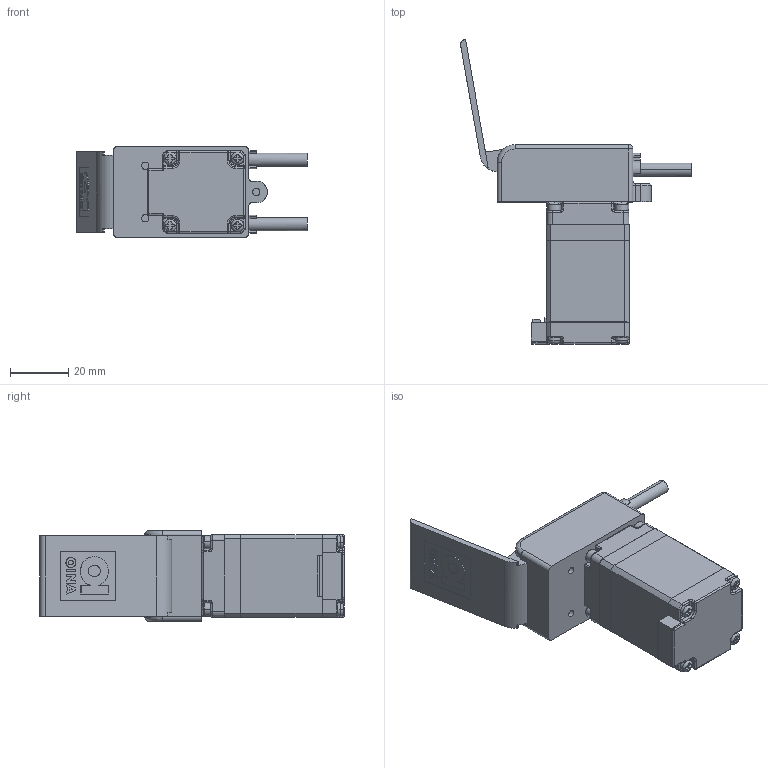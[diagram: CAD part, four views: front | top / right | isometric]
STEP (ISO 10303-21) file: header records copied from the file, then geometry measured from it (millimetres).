
FILE_DESCRIPTION (( 'STEP AP203' ), '1' );
FILE_NAME ('ETL200-18-Hompeage open-2.STEP', '2020-06-08T11:03:23', ( 'admin' ), ( 'Gardner Denver' ), 'SwSTEP 2.0', 'SolidWorks 2017', '' );
FILE_SCHEMA (( 'CONFIG_CONTROL_DESIGN' ));
Length unit declared in the file: millimetre
Products named in the file (1): ETL200-18-Hompeage open-2
Bounding box: 78.99 x 104.21 x 31 mm (x, y, z)
Volume: 67683.6 mm3; surface area: 16405.9 mm2
Topology: 1 solids, 1 shells, 781 faces, 2028 edges, 1248 vertices
Faces by surface type: plane 506, cylinder 160, bspline 53, torus 36, cone 16, sphere 10
Entity records: 25243 total; most frequent: CARTESIAN_POINT 6553, ORIENTED_EDGE 4016, DIRECTION 3670, EDGE_CURVE 2008, LINE 1354, VECTOR 1354, VERTEX_POINT 1248, AXIS2_PLACEMENT_3D 1158
